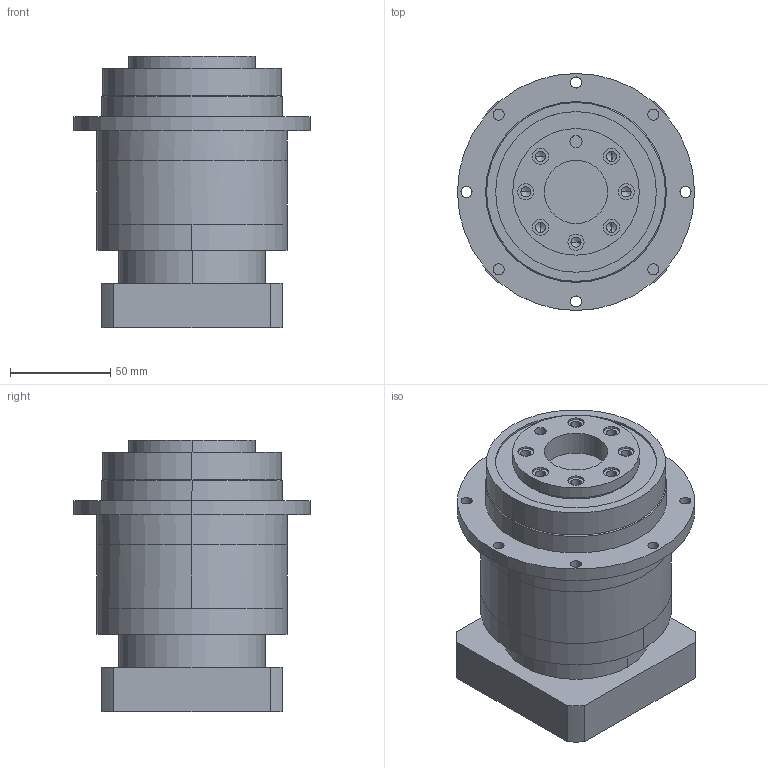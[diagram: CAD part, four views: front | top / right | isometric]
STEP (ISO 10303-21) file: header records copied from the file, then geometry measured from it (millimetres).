
FILE_DESCRIPTION (( 'STEP AP203' ), '1' );
FILE_NAME ('PLX90-L2-19-70-90.STEP', '2022-07-05T08:20:50', ( 'Windows User' ), ( 'P R C' ), 'SwSTEP 2.0', 'SolidWorks 2016', '' );
FILE_SCHEMA (( 'CONFIG_CONTROL_DESIGN' ));
Length unit declared in the file: millimetre
Products named in the file (6): PLX90 窣諉啣-梓袧; 粣創-6006 30x55x13; PLX90-L2-19-70-90; PLX90 媼撰狟屳啣-19; PLX90 内齿圈_一级加二级内齿圈; 囀鞠褒蹟佪-M6x16
Assembly tree (5 placements, depth 2):
  PLX90-L2-19-70-90
    PLX90 媼撰狟屳啣-19
    PLX90 内齿圈_一级加二级内齿圈
    囀鞠褒蹟佪-M6x16
    PLX90 窣諉啣-梓袧
    粣創-6006 30x55x13
Bounding box: 118 x 118 x 135 mm (x, y, z)
Volume: 824192.2 mm3; surface area: 151572.9 mm2
Topology: 6 solids, 7 shells, 1159 faces, 3163 edges, 2075 vertices
Faces by surface type: plane 556, cylinder 268, bspline 165, sphere 77, torus 51, cone 42
Entity records: 46529 total; most frequent: CARTESIAN_POINT 17800, ORIENTED_EDGE 6184, DIRECTION 5308, EDGE_CURVE 3092, VERTEX_POINT 2053, AXIS2_PLACEMENT_3D 1897, VECTOR 1514, LINE 1514
